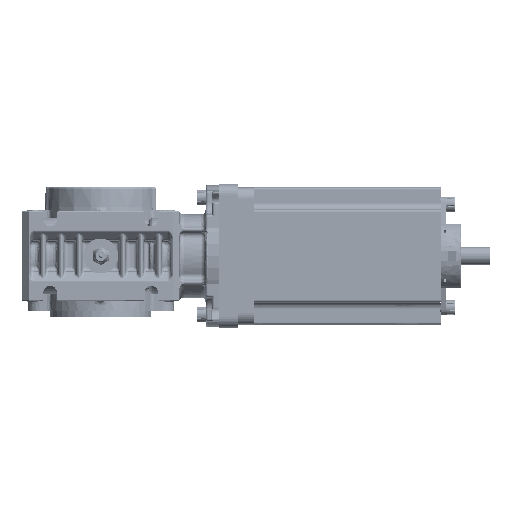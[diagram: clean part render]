
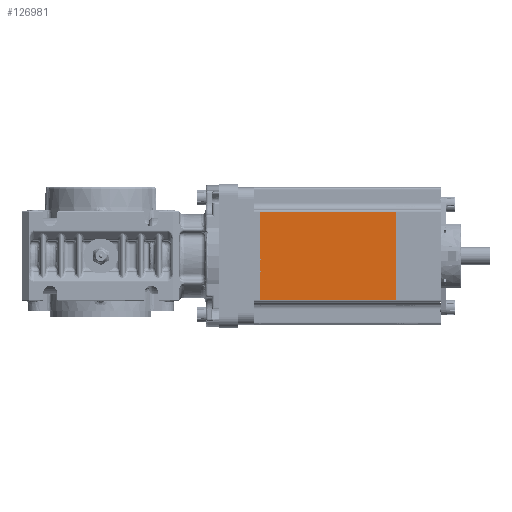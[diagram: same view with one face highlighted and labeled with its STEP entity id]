
A CAD part, front view. The second image highlights one B-rep face of the part: STEP entity #126981.
In plain terms, the highlighted planar face has unit normal (0, -1, 0).
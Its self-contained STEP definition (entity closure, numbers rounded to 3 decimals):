
#6410 = ORIENTED_EDGE ( 'NONE', *, *, #215986, .T. ) ;
#15123 = CARTESIAN_POINT ( 'NONE',  ( 33.16, 1.5, -6.5 ) ) ;
#17782 = ORIENTED_EDGE ( 'NONE', *, *, #362418, .F. ) ;
#19512 = VERTEX_POINT ( 'NONE', #124759 ) ;
#26147 = DIRECTION ( 'NONE',  ( 1., 0., 0. ) ) ;
#31769 = LINE ( 'NONE', #90434, #290148 ) ;
#43277 = LINE ( 'NONE', #77311, #76544 ) ;
#52946 = CARTESIAN_POINT ( 'NONE',  ( -49.84, 1.5, -12.5 ) ) ;
#56620 = LINE ( 'NONE', #52946, #176373 ) ;
#76544 = VECTOR ( 'NONE', #358002, 1000. ) ;
#77311 = CARTESIAN_POINT ( 'NONE',  ( 13.16, 1.5, -6.5 ) ) ;
#90434 = CARTESIAN_POINT ( 'NONE',  ( 33.16, 1.5, -51.5 ) ) ;
#98435 = DIRECTION ( 'NONE',  ( 1., 0., 0. ) ) ;
#106842 = VECTOR ( 'NONE', #184226, 1000. ) ;
#107305 = CARTESIAN_POINT ( 'NONE',  ( 13.16, 1.5, -12.5 ) ) ;
#123548 = LINE ( 'NONE', #326697, #106842 ) ;
#124759 = CARTESIAN_POINT ( 'NONE',  ( 13.16, 1.5, -51.5 ) ) ;
#126981 = ADVANCED_FACE ( 'NONE', ( #356476 ), #242640, .T. ) ;
#135811 = EDGE_LOOP ( 'NONE', ( #275813, #291743, #17782, #6410 ) ) ;
#168273 = DIRECTION ( 'NONE',  ( -1., 0., 0. ) ) ;
#173138 = VERTEX_POINT ( 'NONE', #356880 ) ;
#176373 = VECTOR ( 'NONE', #168273, 1000. ) ;
#184226 = DIRECTION ( 'NONE',  ( 0., 0., 1. ) ) ;
#215986 = EDGE_CURVE ( 'NONE', #282870, #19512, #31769, .T. ) ;
#242640 = PLANE ( 'NONE',  #368542 ) ;
#260453 = EDGE_CURVE ( 'NONE', #361977, #19512, #43277, .T. ) ;
#275813 = ORIENTED_EDGE ( 'NONE', *, *, #260453, .F. ) ;
#282870 = VERTEX_POINT ( 'NONE', #362569 ) ;
#290148 = VECTOR ( 'NONE', #26147, 1000. ) ;
#291743 = ORIENTED_EDGE ( 'NONE', *, *, #335210, .T. ) ;
#326697 = CARTESIAN_POINT ( 'NONE',  ( -46.84, 1.5, -6.5 ) ) ;
#335210 = EDGE_CURVE ( 'NONE', #361977, #173138, #56620, .T. ) ;
#356476 = FACE_OUTER_BOUND ( 'NONE', #135811, .T. ) ;
#356880 = CARTESIAN_POINT ( 'NONE',  ( -46.84, 1.5, -12.5 ) ) ;
#358002 = DIRECTION ( 'NONE',  ( 0., 0., -1. ) ) ;
#358368 = DIRECTION ( 'NONE',  ( 0., -1., 0. ) ) ;
#361977 = VERTEX_POINT ( 'NONE', #107305 ) ;
#362418 = EDGE_CURVE ( 'NONE', #282870, #173138, #123548, .T. ) ;
#362569 = CARTESIAN_POINT ( 'NONE',  ( -46.84, 1.5, -51.5 ) ) ;
#368542 = AXIS2_PLACEMENT_3D ( 'NONE', #15123, #358368, #98435 ) ;
